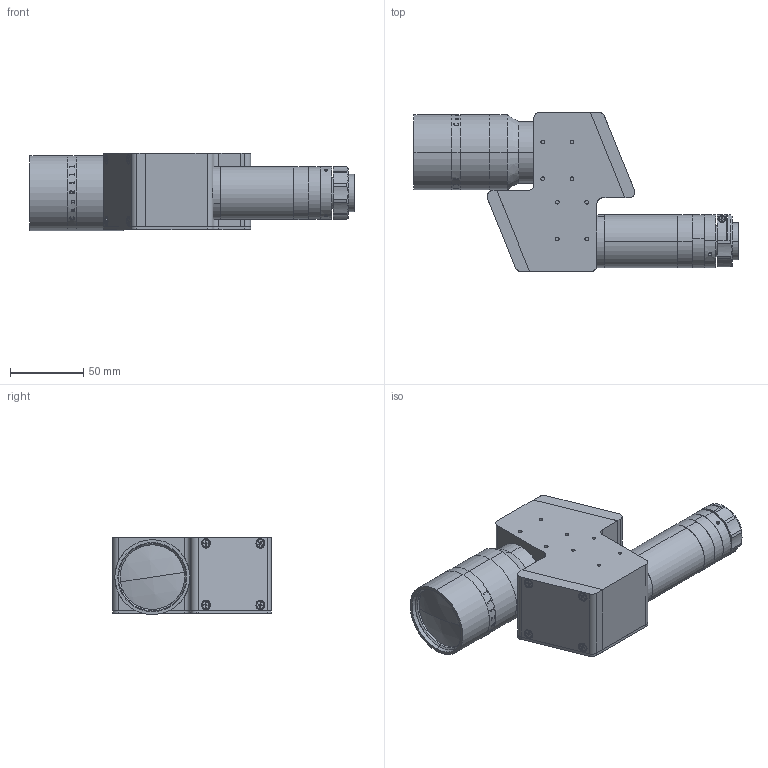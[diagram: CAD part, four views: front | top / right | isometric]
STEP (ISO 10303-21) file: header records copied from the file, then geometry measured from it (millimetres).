
FILE_DESCRIPTION (( 'STEP AP203' ), '1' );
FILE_NAME ('XF-MH075X446.STEP', '2020-04-13T08:01:16', ( 'puyufan' ), ( '' ), 'SwSTEP 2.0', 'SolidWorks 2014', '' );
FILE_SCHEMA (( 'CONFIG_CONTROL_DESIGN' ));
Length unit declared in the file: millimetre
Products named in the file (1): XF-MH075X446
Bounding box: 220.58 x 108 x 52.5 mm (x, y, z)
Surface area: 74320.8 mm2 (no closed solid volume)
Topology: 0 solids, 48 shells, 433 faces, 1910 edges, 1493 vertices
Faces by surface type: plane 204, cylinder 175, cone 45, bspline 5, sphere 2, torus 2
Entity records: 26029 total; most frequent: CARTESIAN_POINT 10767, DIRECTION 3116, ORIENTED_EDGE 2736, EDGE_CURVE 1908, VERTEX_POINT 1493, AXIS2_PLACEMENT_3D 1077, VECTOR 962, LINE 962
